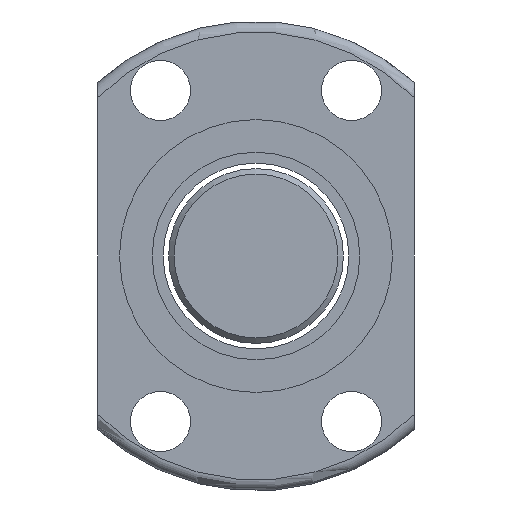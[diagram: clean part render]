
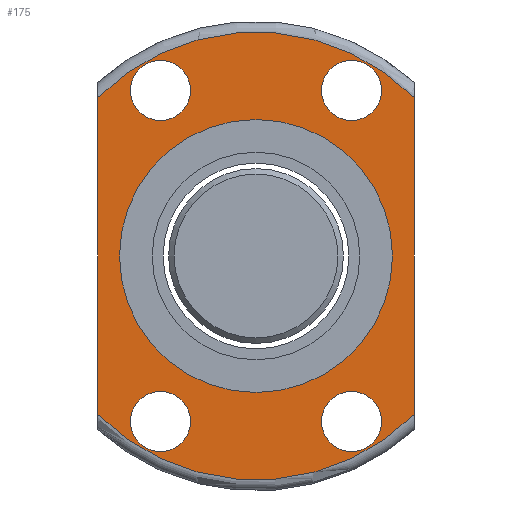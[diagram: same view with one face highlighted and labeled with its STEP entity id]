
A CAD part, left-side view. The second image highlights one B-rep face of the part: STEP entity #175.
In plain terms, the highlighted planar face has unit normal (-1, 0, 0).
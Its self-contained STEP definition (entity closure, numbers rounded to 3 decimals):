
#99=LINE('',#870,#107);
#100=LINE('',#871,#108);
#107=VECTOR('',#686,1.);
#108=VECTOR('',#687,1.);
#135=PLANE('',#588);
#152=FACE_OUTER_BOUND('',#278,.T.);
#175=ADVANCED_FACE('',(#222,#223,#224,#225,#226,#152),#135,.F.);
#222=FACE_BOUND('',#273,.T.);
#223=FACE_BOUND('',#274,.T.);
#224=FACE_BOUND('',#275,.T.);
#225=FACE_BOUND('',#276,.T.);
#226=FACE_BOUND('',#277,.T.);
#273=EDGE_LOOP('',(#351));
#274=EDGE_LOOP('',(#352));
#275=EDGE_LOOP('',(#353));
#276=EDGE_LOOP('',(#354));
#277=EDGE_LOOP('',(#355));
#278=EDGE_LOOP('',(#356,#357,#358,#359));
#351=ORIENTED_EDGE('',*,*,#494,.F.);
#352=ORIENTED_EDGE('',*,*,#495,.T.);
#353=ORIENTED_EDGE('',*,*,#496,.T.);
#354=ORIENTED_EDGE('',*,*,#497,.T.);
#355=ORIENTED_EDGE('',*,*,#498,.T.);
#356=ORIENTED_EDGE('',*,*,#492,.T.);
#357=ORIENTED_EDGE('',*,*,#499,.T.);
#358=ORIENTED_EDGE('',*,*,#479,.T.);
#359=ORIENTED_EDGE('',*,*,#500,.F.);
#435=VERTEX_POINT('',#798);
#436=VERTEX_POINT('',#799);
#447=VERTEX_POINT('',#850);
#448=VERTEX_POINT('',#852);
#449=VERTEX_POINT('',#861);
#450=VERTEX_POINT('',#863);
#451=VERTEX_POINT('',#865);
#452=VERTEX_POINT('',#867);
#453=VERTEX_POINT('',#869);
#479=EDGE_CURVE('',#435,#436,#531,.T.);
#492=EDGE_CURVE('',#448,#447,#537,.T.);
#494=EDGE_CURVE('',#449,#449,#538,.T.);
#495=EDGE_CURVE('',#450,#450,#539,.T.);
#496=EDGE_CURVE('',#451,#451,#540,.T.);
#497=EDGE_CURVE('',#452,#452,#541,.T.);
#498=EDGE_CURVE('',#453,#453,#542,.T.);
#499=EDGE_CURVE('',#447,#435,#99,.T.);
#500=EDGE_CURVE('',#448,#436,#100,.T.);
#531=CIRCLE('',#572,20.5);
#537=CIRCLE('',#581,20.5);
#538=CIRCLE('',#583,12.5);
#539=CIRCLE('',#584,2.75);
#540=CIRCLE('',#585,2.75);
#541=CIRCLE('',#586,2.75);
#542=CIRCLE('',#587,2.75);
#572=AXIS2_PLACEMENT_3D('',#797,#652,#653);
#581=AXIS2_PLACEMENT_3D('',#851,#672,#673);
#583=AXIS2_PLACEMENT_3D('',#860,#676,#677);
#584=AXIS2_PLACEMENT_3D('',#862,#678,#679);
#585=AXIS2_PLACEMENT_3D('',#864,#680,#681);
#586=AXIS2_PLACEMENT_3D('',#866,#682,#683);
#587=AXIS2_PLACEMENT_3D('',#868,#684,#685);
#588=AXIS2_PLACEMENT_3D('',#872,#688,#689);
#652=DIRECTION('',(-1.,0.,0.));
#653=DIRECTION('',(0.,-1.,0.));
#672=DIRECTION('',(-1.,0.,0.));
#673=DIRECTION('',(0.,-1.,0.));
#676=DIRECTION('',(-1.,0.,0.));
#677=DIRECTION('',(0.,-1.,0.));
#678=DIRECTION('',(1.,0.,0.));
#679=DIRECTION('',(0.,1.,0.));
#680=DIRECTION('',(1.,0.,0.));
#681=DIRECTION('',(0.,1.,0.));
#682=DIRECTION('',(1.,0.,0.));
#683=DIRECTION('',(0.,1.,0.));
#684=DIRECTION('',(1.,0.,0.));
#685=DIRECTION('',(0.,1.,0.));
#686=DIRECTION('',(0.,0.,-1.));
#687=DIRECTION('',(0.,0.,-1.));
#688=DIRECTION('',(1.,0.,0.));
#689=DIRECTION('',(0.,1.,0.));
#797=CARTESIAN_POINT('',(-25.,0.,0.));
#798=CARTESIAN_POINT('',(-25.,14.5,-14.491));
#799=CARTESIAN_POINT('',(-25.,-14.5,-14.491));
#850=CARTESIAN_POINT('',(-25.,14.5,14.491));
#851=CARTESIAN_POINT('',(-25.,0.,0.));
#852=CARTESIAN_POINT('',(-25.,-14.5,14.491));
#860=CARTESIAN_POINT('',(-25.,0.,0.));
#861=CARTESIAN_POINT('',(-25.,-12.5,0.));
#862=CARTESIAN_POINT('',(-25.,8.75,15.16));
#863=CARTESIAN_POINT('',(-25.,11.5,15.16));
#864=CARTESIAN_POINT('',(-25.,-8.75,15.16));
#865=CARTESIAN_POINT('',(-25.,-6.,15.16));
#866=CARTESIAN_POINT('',(-25.,-8.75,-15.16));
#867=CARTESIAN_POINT('',(-25.,-6.,-15.16));
#868=CARTESIAN_POINT('',(-25.,8.75,-15.16));
#869=CARTESIAN_POINT('',(-25.,11.5,-15.16));
#870=CARTESIAN_POINT('',(-25.,14.5,0.));
#871=CARTESIAN_POINT('',(-25.,-14.5,0.));
#872=CARTESIAN_POINT('',(-25.,16.5,0.));
